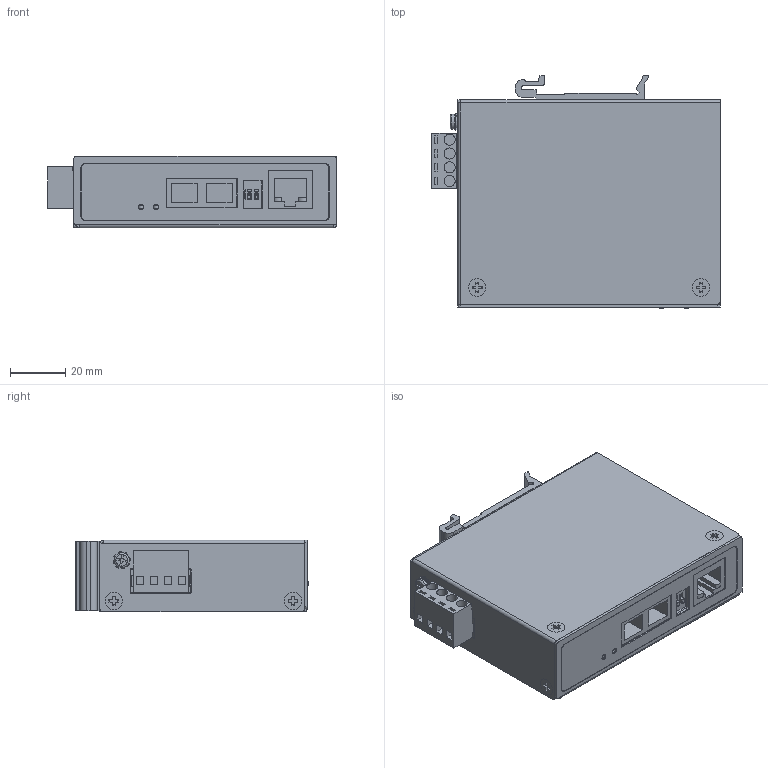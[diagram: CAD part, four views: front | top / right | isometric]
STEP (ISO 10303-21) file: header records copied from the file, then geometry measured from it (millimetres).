
FILE_DESCRIPTION(/* description */ ('STEP AP242','CAx-IF Rec.Pracs.---Representation and Presentation of Product Manufacturing Information (PMI)---4.0---2014-10-13','CAx-IF Rec.Pracs.---3D Tessellated Geometry---0.4---2014-09-14','2;1'),/* implementation_level */ '2;1');
FILE_NAME(/* name */ '684cb0e129f2a531540af247',/* time_stamp */ '2025-06-13T23:14:43Z',/* author */ (''),/* organization */ (''),/* preprocessor_version */ 'ST-DEVELOPER v20',/* originating_system */ 'ONSHAPE BY PTC INC, 1.199',/* authorisation */ ' ');
FILE_SCHEMA (('AP242_MANAGED_MODEL_BASED_3D_ENGINEERING_MIM_LF { 1 0 10303 442 1 1 4 }'));
Length unit declared in the file: metre
Products named in the file (20): EGD-XX-4; M3_SCREW_FLT_HD; STENT; TERMINAL_BLOCK; BOTTOM_CASE; SCREW_M3X6; LED; RJ_CONN; M3_SCREW; DIN_RAIL; TOP_CASE; MYLAR_SWITCH_A; MULTIMODE_TRANSCEIVER_AVAGO_H10; DIP Switch <1>; DIP_SWITCH
Assembly tree (34 placements, depth 3):
  EGD-XX-4
    M3_SCREW_FLT_HD  x9
    STENT
    TERMINAL_BLOCK
    BOTTOM_CASE
    SCREW_M3X6  x4
    LED  x2
    RJ_CONN
    M3_SCREW
    DIN_RAIL
    TOP_CASE
    MYLAR_SWITCH_A
    TERMINAL_BLOCK
    MULTIMODE_TRANSCEIVER_AVAGO_H10
    DIP Switch <1>
      DIP_SWITCH  x2
      DIP_SWITCH
      DIP_SWITCH  x2
      DIP_SWITCH  x2
      DIP_SWITCH
Bounding box: 104.48 x 84.23 x 26 mm (x, y, z)
Volume: 45442.1 mm3; surface area: 67806.7 mm2
Topology: 33 solids, 33 shells, 1283 faces, 3270 edges, 2112 vertices
Faces by surface type: plane 833, cylinder 324, torus 78, sphere 24, cone 22, bspline 2
Full cylindrical faces by diameter (mm): 1.5 x1, 2 x2, 2.2 x2, 2.8 x6, 2.9 x10, 3 x31, 4 x7, 5 x17, 5.5 x5, 6 x4
Entity records: 32445 total; most frequent: CARTESIAN_POINT 7897, DIRECTION 5078, ORIENTED_EDGE 4794, EDGE_CURVE 2397, AXIS2_PLACEMENT_3D 1716, LINE 1646, VECTOR 1646, VERTEX_POINT 1595
